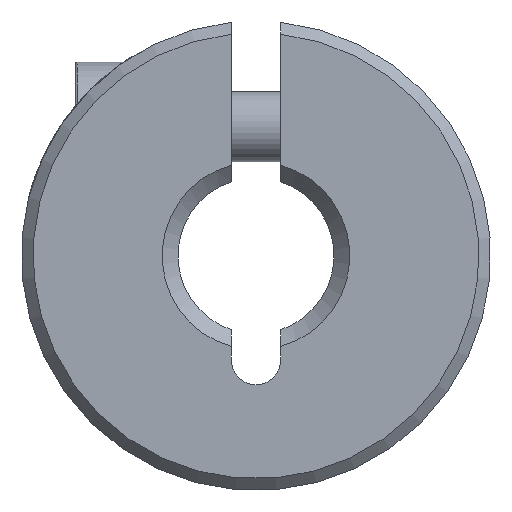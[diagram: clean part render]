
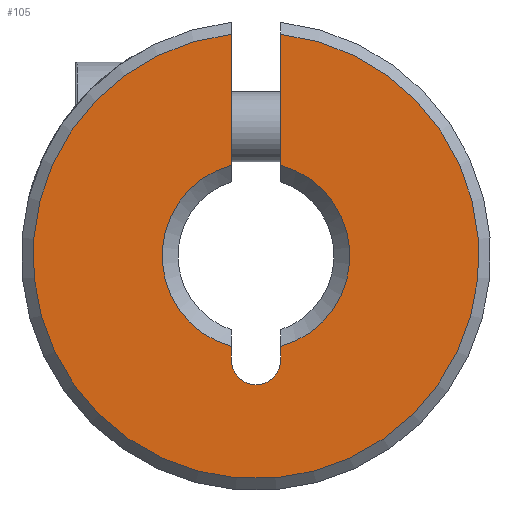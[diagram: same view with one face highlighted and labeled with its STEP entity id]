
A CAD part, left-side view. The second image highlights one B-rep face of the part: STEP entity #105.
In plain terms, the highlighted planar face has unit normal (-1, 0, 0).
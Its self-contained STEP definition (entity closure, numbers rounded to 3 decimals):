
#105 = ADVANCED_FACE( '', ( #178 ), #179, .F. );
#178 = FACE_OUTER_BOUND( '', #251, .T. );
#179 = PLANE( '', #252 );
#251 = EDGE_LOOP( '', ( #473, #474, #475, #476, #477, #478, #479, #480 ) );
#252 = AXIS2_PLACEMENT_3D( '', #481, #482, #483 );
#473 = ORIENTED_EDGE( '', *, *, #550, .T. );
#474 = ORIENTED_EDGE( '', *, *, #517, .T. );
#475 = ORIENTED_EDGE( '', *, *, #526, .T. );
#476 = ORIENTED_EDGE( '', *, *, #508, .F. );
#477 = ORIENTED_EDGE( '', *, *, #504, .T. );
#478 = ORIENTED_EDGE( '', *, *, #513, .T. );
#479 = ORIENTED_EDGE( '', *, *, #488, .T. );
#480 = ORIENTED_EDGE( '', *, *, #552, .T. );
#481 = CARTESIAN_POINT( '', ( -4.5, 0., 0. ) );
#482 = DIRECTION( '', ( 1., 0., 0. ) );
#483 = DIRECTION( '', ( 0., 0., -1. ) );
#488 = EDGE_CURVE( '', #562, #560, #563, .T. );
#504 = EDGE_CURVE( '', #579, #592, #594, .T. );
#508 = EDGE_CURVE( '', #579, #600, #601, .T. );
#513 = EDGE_CURVE( '', #592, #562, #607, .T. );
#517 = EDGE_CURVE( '', #614, #612, #615, .T. );
#526 = EDGE_CURVE( '', #612, #600, #626, .T. );
#550 = EDGE_CURVE( '', #667, #614, #668, .T. );
#552 = EDGE_CURVE( '', #560, #667, #670, .T. );
#560 = VERTEX_POINT( '', #683 );
#562 = VERTEX_POINT( '', #686 );
#563 = LINE( '', #687, #688 );
#579 = VERTEX_POINT( '', #780 );
#592 = VERTEX_POINT( '', #805 );
#594 = LINE( '', #810, #811 );
#600 = VERTEX_POINT( '', #820 );
#601 = CIRCLE( '', #821, 9.5 );
#607 = CIRCLE( '', #831, 4. );
#612 = VERTEX_POINT( '', #836 );
#614 = VERTEX_POINT( '', #841 );
#615 = CIRCLE( '', #842, 4. );
#626 = LINE( '', #860, #861 );
#667 = VERTEX_POINT( '', #920 );
#668 = LINE( '', #921, #922 );
#670 = CIRCLE( '', #925, 1.05 );
#683 = CARTESIAN_POINT( '', ( -4.5, -1.05, -4.45 ) );
#686 = CARTESIAN_POINT( '', ( -4.5, -1.05, -3.86 ) );
#687 = CARTESIAN_POINT( '', ( -4.5, -1.05, 0. ) );
#688 = VECTOR( '', #929, 1000. );
#780 = CARTESIAN_POINT( '', ( -4.5, -1.05, 9.442 ) );
#805 = CARTESIAN_POINT( '', ( -4.5, -1.05, 3.86 ) );
#810 = CARTESIAN_POINT( '', ( -4.5, -1.05, 13.333 ) );
#811 = VECTOR( '', #945, 1000. );
#820 = CARTESIAN_POINT( '', ( -4.5, 1.05, 9.442 ) );
#821 = AXIS2_PLACEMENT_3D( '', #952, #953, #954 );
#831 = AXIS2_PLACEMENT_3D( '', #962, #963, #964 );
#836 = CARTESIAN_POINT( '', ( -4.5, 1.05, 3.86 ) );
#841 = CARTESIAN_POINT( '', ( -4.5, 1.05, -3.86 ) );
#842 = AXIS2_PLACEMENT_3D( '', #971, #972, #973 );
#860 = CARTESIAN_POINT( '', ( -4.5, 1.05, 0. ) );
#861 = VECTOR( '', #987, 1000. );
#920 = CARTESIAN_POINT( '', ( -4.5, 1.05, -4.45 ) );
#921 = CARTESIAN_POINT( '', ( -4.5, 1.05, -4.45 ) );
#922 = VECTOR( '', #1021, 1000. );
#925 = AXIS2_PLACEMENT_3D( '', #1023, #1024, #1025 );
#929 = DIRECTION( '', ( 0., 0., -1. ) );
#945 = DIRECTION( '', ( 0., 0., -1. ) );
#952 = CARTESIAN_POINT( '', ( -4.5, 0., 0. ) );
#953 = DIRECTION( '', ( 1., 0., 0. ) );
#954 = DIRECTION( '', ( 0., 0., -1. ) );
#962 = CARTESIAN_POINT( '', ( -4.5, 0., 0. ) );
#963 = DIRECTION( '', ( 1., 0., 0. ) );
#964 = DIRECTION( '', ( 0., 0., -1. ) );
#971 = CARTESIAN_POINT( '', ( -4.5, 0., 0. ) );
#972 = DIRECTION( '', ( 1., 0., 0. ) );
#973 = DIRECTION( '', ( 0., 0., -1. ) );
#987 = DIRECTION( '', ( 0., 0., 1. ) );
#1021 = DIRECTION( '', ( 0., 0., 1. ) );
#1023 = CARTESIAN_POINT( '', ( -4.5, 0., -4.45 ) );
#1024 = DIRECTION( '', ( 1., 0., 0. ) );
#1025 = DIRECTION( '', ( 0., 0., -1. ) );
